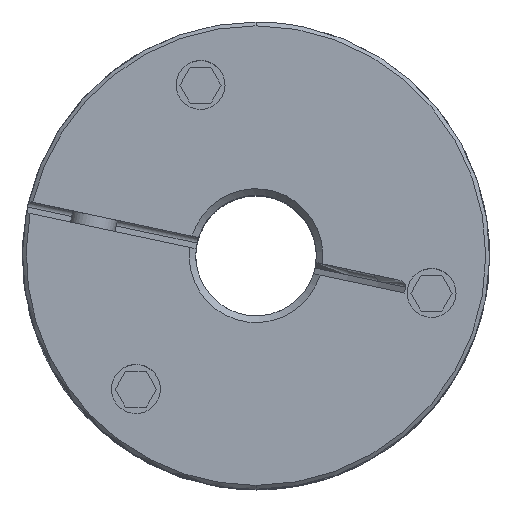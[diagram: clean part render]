
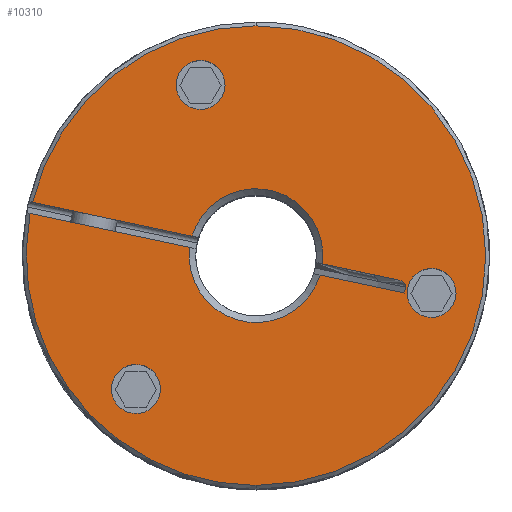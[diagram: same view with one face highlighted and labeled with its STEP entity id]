
A CAD part, top view. The second image highlights one B-rep face of the part: STEP entity #10310.
In plain terms, the highlighted planar face has unit normal (0, 0, 1).
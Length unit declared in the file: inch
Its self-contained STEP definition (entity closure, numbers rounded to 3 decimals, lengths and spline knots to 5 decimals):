
#470=CARTESIAN_POINT('',(-0.62731,-0.6967,
2.95324));
#471=DIRECTION('',(0.,0.,-1.));
#472=DIRECTION('',(-0.208,-0.978,0.));
#473=AXIS2_PLACEMENT_3D('',#470,#471,#472);
#478=CARTESIAN_POINT('',(-0.62731,-0.6967,
2.95324));
#479=DIRECTION('',(0.,0.,-1.));
#480=DIRECTION('',(0.,-1.,0.));
#481=AXIS2_PLACEMENT_3D('',#478,#479,#480);
#486=CARTESIAN_POINT('',(-0.62731,-0.6967,
2.95324));
#487=DIRECTION('',(0.,0.,-1.));
#488=DIRECTION('',(0.208,0.978,0.));
#489=AXIS2_PLACEMENT_3D('',#486,#487,#488);
#494=CARTESIAN_POINT('',(-0.62731,-0.6967,
2.95324));
#495=DIRECTION('',(0.,0.,-1.));
#496=DIRECTION('',(0.,1.,0.));
#497=AXIS2_PLACEMENT_3D('',#494,#495,#496);
#502=CARTESIAN_POINT('',(-0.2897,0.89162,
2.95324));
#503=DIRECTION('',(0.,0.,-1.));
#504=DIRECTION('',(-0.208,-0.978,0.));
#505=AXIS2_PLACEMENT_3D('',#502,#503,#504);
#510=CARTESIAN_POINT('',(-0.2897,0.89162,
2.95324));
#511=DIRECTION('',(0.,0.,-1.));
#512=DIRECTION('',(0.,-1.,0.));
#513=AXIS2_PLACEMENT_3D('',#510,#511,#512);
#518=CARTESIAN_POINT('',(-0.2897,0.89162,
2.95324));
#519=DIRECTION('',(0.,0.,-1.));
#520=DIRECTION('',(0.208,0.978,0.));
#521=AXIS2_PLACEMENT_3D('',#518,#519,#520);
#526=CARTESIAN_POINT('',(-0.2897,0.89162,
2.95324));
#527=DIRECTION('',(0.,0.,-1.));
#528=DIRECTION('',(0.,1.,0.));
#529=AXIS2_PLACEMENT_3D('',#526,#527,#528);
#534=CARTESIAN_POINT('',(0.91701,-0.19492,
2.95324));
#535=DIRECTION('',(0.,0.,-1.));
#536=DIRECTION('',(0.208,0.978,0.));
#537=AXIS2_PLACEMENT_3D('',#534,#535,#536);
#542=CARTESIAN_POINT('',(0.91701,-0.19492,
2.95324));
#543=DIRECTION('',(0.,0.,-1.));
#544=DIRECTION('',(0.,1.,0.));
#545=AXIS2_PLACEMENT_3D('',#542,#543,#544);
#550=CARTESIAN_POINT('',(0.91701,-0.19492,
2.95324));
#551=DIRECTION('',(0.,0.,-1.));
#552=DIRECTION('',(-0.208,-0.978,0.));
#553=AXIS2_PLACEMENT_3D('',#550,#551,#552);
#558=CARTESIAN_POINT('',(0.91701,-0.19492,
2.95324));
#559=DIRECTION('',(0.,0.,-1.));
#560=DIRECTION('',(0.,-1.,0.));
#561=AXIS2_PLACEMENT_3D('',#558,#559,#560);
#566=DIRECTION('',(0.978,-0.208,0.));
#567=VECTOR('',#566,0.85178);
#568=CARTESIAN_POINT('',(-1.16764,0.27886,2.95324));
#569=LINE('',#568,#567);
#573=CARTESIAN_POINT('',(0.,0.,2.95324));
#574=DIRECTION('',(0.,0.,1.));
#575=DIRECTION('',(0.,1.,0.));
#576=AXIS2_PLACEMENT_3D('',#573,#574,#575);
#581=CARTESIAN_POINT('',(0.,0.,2.95324));
#582=DIRECTION('',(0.,0.,1.));
#583=DIRECTION('',(0.,-1.,0.));
#584=AXIS2_PLACEMENT_3D('',#581,#582,#583);
#589=CARTESIAN_POINT('',(0.,0.,2.95324));
#590=DIRECTION('',(0.,0.,1.));
#591=DIRECTION('',(-0.983,0.183,0.));
#592=AXIS2_PLACEMENT_3D('',#589,#590,#591);
#597=DIRECTION('',(-0.978,0.208,0.));
#598=VECTOR('',#597,0.85178);
#599=CARTESIAN_POINT('',(-0.34694,0.04307,
2.95324));
#600=LINE('',#599,#598);
#604=DIRECTION('',(-0.978,0.208,0.));
#605=VECTOR('',#604,0.45017);
#606=CARTESIAN_POINT('',(0.7748,-0.19536,
2.95324));
#607=LINE('',#606,#605);
#611=DIRECTION('',(-0.208,-0.978,0.));
#612=VECTOR('',#611,0.031);
#613=CARTESIAN_POINT('',(0.78124,-0.16504,
2.95324));
#614=LINE('',#613,#612);
#618=CARTESIAN_POINT('',(0.7498,-0.12871,
2.95324));
#619=CARTESIAN_POINT('',(0.75444,-0.12969,
2.95324));
#620=CARTESIAN_POINT('',(0.76269,-0.13269,
2.95324));
#621=CARTESIAN_POINT('',(0.77229,-0.13951,
2.95324));
#622=CARTESIAN_POINT('',(0.77886,-0.14777,
2.95324));
#623=CARTESIAN_POINT('',(0.78197,-0.15682,
2.95324));
#624=CARTESIAN_POINT('',(0.78182,-0.16232,
2.95324));
#625=CARTESIAN_POINT('',(0.78124,-0.16504,
2.95324));
#630=DIRECTION('',(0.978,-0.208,0.));
#631=VECTOR('',#630,0.41186);
#632=CARTESIAN_POINT('',(0.34694,-0.04307,
2.95324));
#633=LINE('',#632,#631);
#812=CARTESIAN_POINT('',(0.,0.,2.95324));
#813=DIRECTION('',(0.,0.,-1.));
#814=DIRECTION('',(-0.957,0.291,0.));
#815=AXIS2_PLACEMENT_3D('',#812,#813,#814);
#844=CARTESIAN_POINT('',(0.,0.,2.95324));
#845=DIRECTION('',(0.,0.,-1.));
#846=DIRECTION('',(0.957,-0.291,0.));
#847=AXIS2_PLACEMENT_3D('',#844,#845,#846);
#859=CARTESIAN_POINT('',(0.34694,-0.04307,
2.95324));
#928=CARTESIAN_POINT('',(0.33447,-0.10176,
2.95324));
#1379=CARTESIAN_POINT('',(-1.16764,0.27886,
2.95324));
#1392=CARTESIAN_POINT('',(-0.33447,0.10176,
2.95324));
#1519=CARTESIAN_POINT('',(-0.34694,0.04307,
2.95324));
#1532=CARTESIAN_POINT('',(-1.18011,0.22017,
2.95324));
#8769=CARTESIAN_POINT('',(0.,-1.20047,2.95324));
#8770=CARTESIAN_POINT('',(0.,1.20047,2.95324));
#8771=VERTEX_POINT('',#8769);
#8772=VERTEX_POINT('',#8770);
#8792=CARTESIAN_POINT('',(-0.31631,0.76646,
2.95324));
#8794=VERTEX_POINT('',#8792);
#9054=CARTESIAN_POINT('',(-0.65391,-0.82185,
2.95324));
#9055=CARTESIAN_POINT('',(-0.62731,-0.56875,
2.95324));
#9056=VERTEX_POINT('',#9054);
#9057=VERTEX_POINT('',#9055);
#9068=CARTESIAN_POINT('',(0.94362,-0.06976,
2.95324));
#9069=CARTESIAN_POINT('',(0.91701,-0.32287,
2.95324));
#9070=VERTEX_POINT('',#9068);
#9071=VERTEX_POINT('',#9069);
#9148=VERTEX_POINT('',#1379);
#9160=VERTEX_POINT('',#1532);
#9297=CARTESIAN_POINT('',(0.89041,-0.32007,
2.95324));
#9298=VERTEX_POINT('',#9297);
#9411=CARTESIAN_POINT('',(-0.2631,1.01677,
2.95324));
#9412=VERTEX_POINT('',#9411);
#9509=VERTEX_POINT('',#618);
#9510=VERTEX_POINT('',#625);
#9579=CARTESIAN_POINT('',(-0.2897,1.01957,
2.95324));
#9580=VERTEX_POINT('',#9579);
#9698=CARTESIAN_POINT('',(-0.2897,0.76366,
2.95324));
#9699=VERTEX_POINT('',#9698);
#9775=CARTESIAN_POINT('',(0.91701,-0.06696,
2.95324));
#9776=VERTEX_POINT('',#9775);
#9791=CARTESIAN_POINT('',(0.7748,-0.19536,
2.95324));
#9792=VERTEX_POINT('',#9791);
#9871=CARTESIAN_POINT('',(-0.60071,-0.57154,
2.95324));
#9872=VERTEX_POINT('',#9871);
#9894=CARTESIAN_POINT('',(-0.62731,-0.82465,
2.95324));
#9895=VERTEX_POINT('',#9894);
#9950=VERTEX_POINT('',#859);
#9955=VERTEX_POINT('',#1392);
#9960=VERTEX_POINT('',#1519);
#9963=VERTEX_POINT('',#928);
#10254=CARTESIAN_POINT('',(0.,0.,2.95324));
#10255=DIRECTION('',(0.,0.,1.));
#10256=DIRECTION('',(0.,-1.,0.));
#10257=AXIS2_PLACEMENT_3D('',#10254,#10255,#10256);
#10258=PLANE('',#10257);
#10260=ORIENTED_EDGE('',*,*,#10259,.F.);
#10262=ORIENTED_EDGE('',*,*,#10261,.F.);
#10264=ORIENTED_EDGE('',*,*,#10263,.F.);
#10266=ORIENTED_EDGE('',*,*,#10265,.F.);
#10268=ORIENTED_EDGE('',*,*,#10267,.F.);
#10270=ORIENTED_EDGE('',*,*,#10269,.F.);
#10272=ORIENTED_EDGE('',*,*,#10271,.F.);
#10274=ORIENTED_EDGE('',*,*,#10273,.F.);
#10276=ORIENTED_EDGE('',*,*,#10275,.F.);
#10278=ORIENTED_EDGE('',*,*,#10277,.F.);
#10280=ORIENTED_EDGE('',*,*,#10279,.F.);
#10281=EDGE_LOOP('',(#10260,#10262,#10264,#10266,#10268,#10270,#10272,#10274,
#10276,#10278,#10280));
#10282=FACE_OUTER_BOUND('',#10281,.F.);
#10284=ORIENTED_EDGE('',*,*,#10283,.F.);
#10285=ORIENTED_EDGE('',*,*,#10232,.F.);
#10286=ORIENTED_EDGE('',*,*,#10230,.F.);
#10287=ORIENTED_EDGE('',*,*,#10245,.F.);
#10288=EDGE_LOOP('',(#10284,#10285,#10286,#10287));
#10289=FACE_BOUND('',#10288,.F.);
#10291=ORIENTED_EDGE('',*,*,#10290,.F.);
#10293=ORIENTED_EDGE('',*,*,#10292,.F.);
#10295=ORIENTED_EDGE('',*,*,#10294,.F.);
#10297=ORIENTED_EDGE('',*,*,#10296,.F.);
#10298=EDGE_LOOP('',(#10291,#10293,#10295,#10297));
#10299=FACE_BOUND('',#10298,.F.);
#10301=ORIENTED_EDGE('',*,*,#10300,.F.);
#10303=ORIENTED_EDGE('',*,*,#10302,.F.);
#10305=ORIENTED_EDGE('',*,*,#10304,.F.);
#10307=ORIENTED_EDGE('',*,*,#10306,.F.);
#10308=EDGE_LOOP('',(#10301,#10303,#10305,#10307));
#10309=FACE_BOUND('',#10308,.F.);
#474=CIRCLE('',#473,0.12795);
#482=CIRCLE('',#481,0.12795);
#490=CIRCLE('',#489,0.12795);
#498=CIRCLE('',#497,0.12795);
#506=CIRCLE('',#505,0.12795);
#514=CIRCLE('',#513,0.12795);
#522=CIRCLE('',#521,0.12795);
#530=CIRCLE('',#529,0.12795);
#538=CIRCLE('',#537,0.12795);
#546=CIRCLE('',#545,0.12795);
#554=CIRCLE('',#553,0.12795);
#562=CIRCLE('',#561,0.12795);
#577=CIRCLE('',#576,1.20047);
#585=CIRCLE('',#584,1.20047);
#593=CIRCLE('',#592,1.20047);
#626=B_SPLINE_CURVE_WITH_KNOTS('',3,(#618,#619,#620,#621,#622,#623,#624,#625),
.UNSPECIFIED.,.F.,.F.,(4,1,1,1,1,4),(0.,0.2,0.4,0.6,0.8,1.),
.UNSPECIFIED.);
#816=CIRCLE('',#815,0.34961);
#848=CIRCLE('',#847,0.34961);
#10230=EDGE_CURVE('',#9412,#9699,#522,.T.);
#10232=EDGE_CURVE('',#9699,#8794,#514,.T.);
#10245=EDGE_CURVE('',#9580,#9412,#530,.T.);
#10259=EDGE_CURVE('',#9148,#9955,#569,.T.);
#10261=EDGE_CURVE('',#8772,#9148,#577,.T.);
#10263=EDGE_CURVE('',#8771,#8772,#585,.T.);
#10265=EDGE_CURVE('',#9160,#8771,#593,.T.);
#10267=EDGE_CURVE('',#9960,#9160,#600,.T.);
#10269=EDGE_CURVE('',#9963,#9960,#848,.T.);
#10271=EDGE_CURVE('',#9792,#9963,#607,.T.);
#10273=EDGE_CURVE('',#9510,#9792,#614,.T.);
#10275=EDGE_CURVE('',#9509,#9510,#626,.T.);
#10277=EDGE_CURVE('',#9950,#9509,#633,.T.);
#10279=EDGE_CURVE('',#9955,#9950,#816,.T.);
#10283=EDGE_CURVE('',#8794,#9580,#506,.T.);
#10290=EDGE_CURVE('',#9070,#9071,#538,.T.);
#10292=EDGE_CURVE('',#9776,#9070,#546,.T.);
#10294=EDGE_CURVE('',#9298,#9776,#554,.T.);
#10296=EDGE_CURVE('',#9071,#9298,#562,.T.);
#10300=EDGE_CURVE('',#9056,#9057,#474,.T.);
#10302=EDGE_CURVE('',#9895,#9056,#482,.T.);
#10304=EDGE_CURVE('',#9872,#9895,#490,.T.);
#10306=EDGE_CURVE('',#9057,#9872,#498,.T.);
#10310=ADVANCED_FACE('',(#10282,#10289,#10299,#10309),#10258,.T.);
